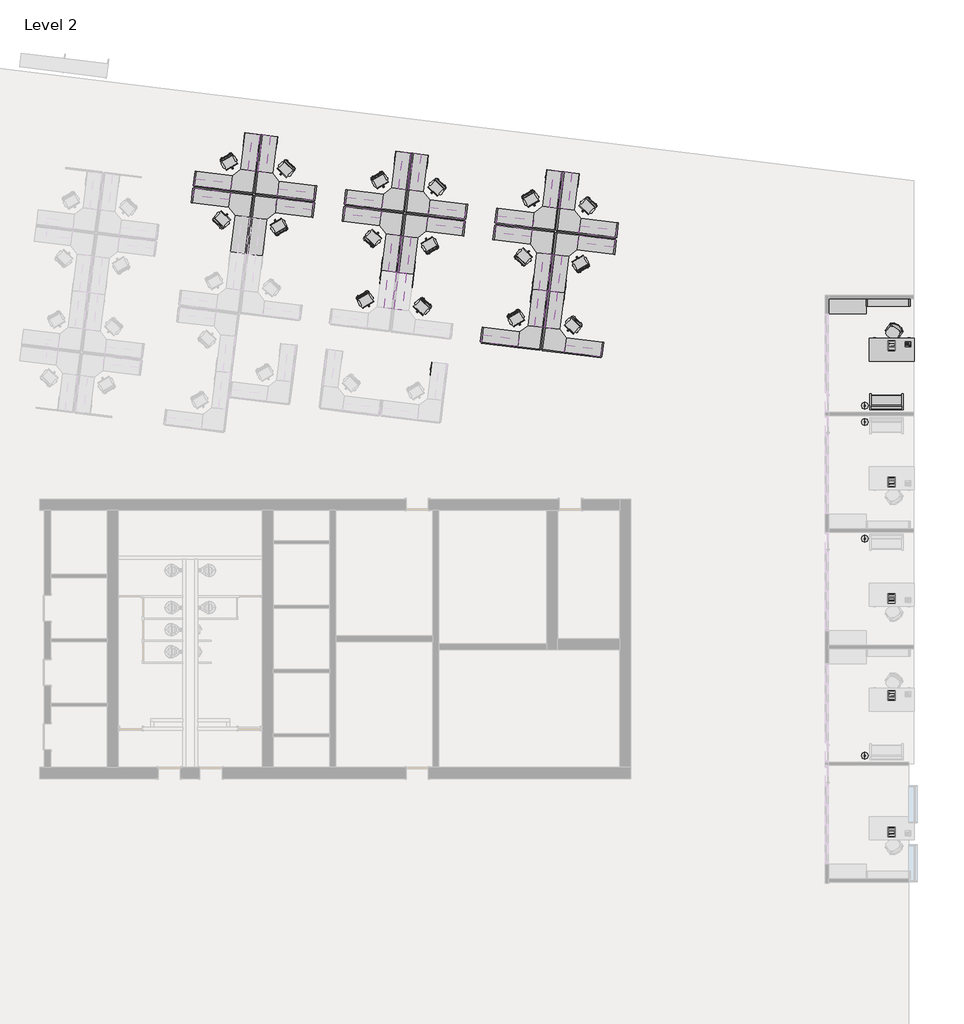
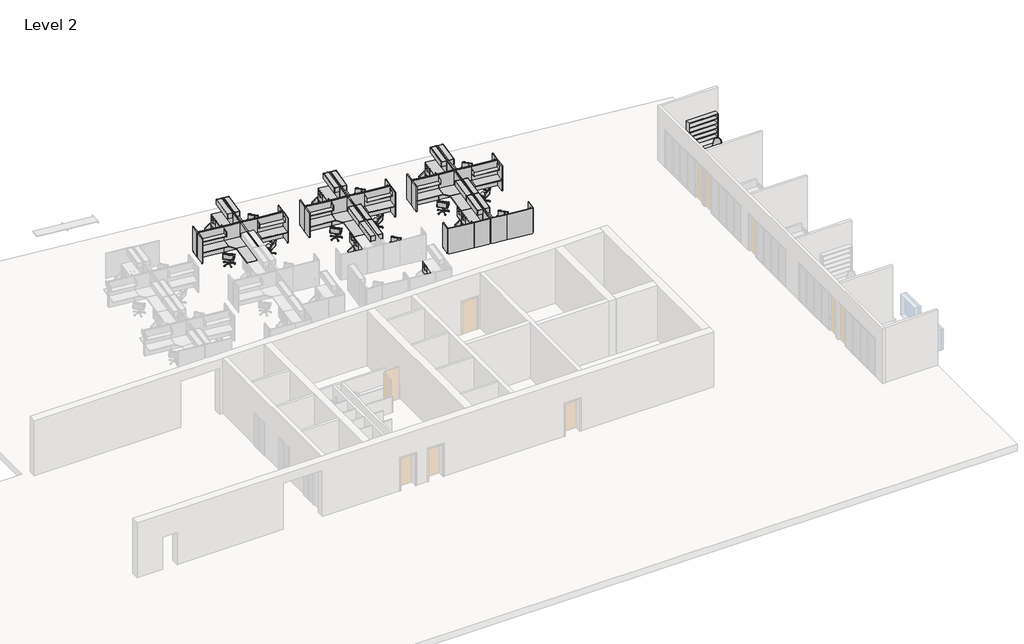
# One storey, part 7 of 7: 92 furniture elements, 6 proxies, 4 light fixtures.
"""IFC4 building model written with IfcOpenShell, lengths in millimetres."""

from ifc_helpers import new_model, si_unit, origin, place, context, project, spatial, transform, mapped, element, save
from components import entourage_0ad6723a, entourage_8dadc95b, phone_phone_5230e7aa, chair_executive_chair_executive_8d69e98c, chair_task_arms_chair_task_arms_3b363349, chair_task_arms_chair_task_arms_8395c10b, furniture_2f1724fb, furniture_665347ce, furniture_3ceed070, furniture_2fc54265, overhead_shelving_module_overhead_shelving_module_3ee17988, overhead_shelving_module_overhead_shelving_module_7dcda1b9, overhead_storage_module_overhead_storage_module_326dc690, overhead_storage_module_overhead_storage_module_bea9f75f, furniture_6f8441ab, furniture_8ec9ccbf, furniture_0333d240, furniture_4718bb14, furniture_45e3acac, furniture_7b33082a, floor_lamp_arm_extension_100w_120v_4af38d8b, floor_lamp_arm_extension_100w_120v_fe5062a9

model = new_model("IFC4")

# Units and contexts
model_context = context("Model", 3, world=origin())
ifc_project = project(units=[si_unit("LENGTHUNIT", "METRE", prefix="MILLI")], contexts=[model_context])

# Site, building, storey
site = spatial("IfcSite", under=ifc_project)
building = spatial("IfcBuilding", under=site)
storey = spatial("IfcBuildingStorey", under=building, Name="Level 2", Elevation=3657.6)

# Proxies
placement = place(None, origin())
entourage_shape = entourage_0ad6723a(model_context)
element("IfcBuildingElementProxy", 1, Name="RPC Notebook Computer : RPC Notebook Computer", ObjectType="RPC Notebook Computer : RPC Notebook Computer", at=placement, inside=storey, context=model_context, shape_type="MappedRepresentation", body=[
    mapped(entourage_shape, transform((14128.9054088, 3143.6530205, 4419.6), x_axis=(-1.0, 0.0, 0.0), y_axis=(0.0, -1.0, 0.0), z_axis=(0.0, 0.0, 1.0))),
])
element("IfcBuildingElementProxy", 2, Name="RPC Notebook Computer : RPC Notebook Computer", ObjectType="RPC Notebook Computer : RPC Notebook Computer", at=placement, inside=storey, context=model_context, shape_type="MappedRepresentation", body=[
    mapped(entourage_shape, transform((14128.9054088, -11359.8598812, 4419.6), x_axis=(-1.0, 0.0, 0.0), y_axis=(0.0, -1.0, 0.0), z_axis=(0.0, 0.0, 1.0))),
])
entourage_2_shape = entourage_8dadc95b(model_context)
element("IfcBuildingElementProxy", 3, Name="RPC Notebook Computer : RPC Notebook Computer", ObjectType="RPC Notebook Computer : RPC Notebook Computer", at=placement, inside=storey, context=model_context, shape_type="MappedRepresentation", body=[
    mapped(entourage_2_shape, transform((14128.9054088, -2561.0729155, 4419.6), x_axis=(-1.0, 0.0, 0.0), y_axis=(0.0, -1.0, 0.0), z_axis=(0.0, 0.0, 1.0))),
])
element("IfcBuildingElementProxy", 4, Name="RPC Notebook Computer : RPC Notebook Computer", ObjectType="RPC Notebook Computer : RPC Notebook Computer", at=placement, inside=storey, context=model_context, shape_type="MappedRepresentation", body=[
    mapped(entourage_2_shape, transform((14128.9054088, -7395.577216, 4419.6), x_axis=(-1.0, 0.0, 0.0), y_axis=(0.0, -1.0, 0.0), z_axis=(0.0, 0.0, 1.0))),
])
element("IfcBuildingElementProxy", 5, Name="RPC Notebook Computer : RPC Notebook Computer", ObjectType="RPC Notebook Computer : RPC Notebook Computer", at=placement, inside=storey, context=model_context, shape_type="MappedRepresentation", body=[
    mapped(entourage_2_shape, transform((14128.9054088, -17064.5858172, 4419.6), x_axis=(-1.0, 0.0, 0.0), y_axis=(0.0, -1.0, 0.0), z_axis=(0.0, 0.0, 1.0))),
])
phone_phone_shape = phone_phone_5230e7aa(model_context)
element("IfcBuildingElementProxy", 6, Name="Phone : Phone", ObjectType="Phone : Phone", at=placement, inside=storey, context=model_context, shape_type="MappedRepresentation", body=[
    mapped(phone_phone_shape, transform((15049.386755, 2959.7567915, 4419.6), x_axis=(1.0, 0.0, 0.0), y_axis=(0.0, 1.0, 0.0), z_axis=(0.0, 0.0, 1.0))),
])

# Furniture
chair_executive_chair_executive_shape = chair_executive_chair_executive_8d69e98c(model_context)
element("IfcFurniture", 7, ObjectType="Chair-Executive : Chair-Executive", at=placement, inside=storey, context=model_context, shape_type="MappedRepresentation", body=[
    mapped(chair_executive_chair_executive_shape, transform((14331.1988374, 3608.0945539, 3657.6), x_axis=(-0.8386705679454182, 0.5446390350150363, 0.0), y_axis=(-0.5446390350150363, -0.8386705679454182, 0.0), z_axis=(0.0, 0.0, 1.0))),
])
chair_task_arms_chair_task_arms_shape = chair_task_arms_chair_task_arms_3b363349(model_context)
element("IfcFurniture", 8, ObjectType="Chair-Task Arms : Chair-Task Arms", at=placement, inside=storey, context=model_context, shape_type="MappedRepresentation", body=[
    mapped(chair_task_arms_chair_task_arms_shape, transform((-13751.3216065, 8411.1318115, 3657.6), x_axis=(0.7193398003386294, -0.6946583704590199, 0.0), y_axis=(0.6946583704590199, 0.7193398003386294, 0.0), z_axis=(0.0, 0.0, 1.0))),
])
element("IfcFurniture", 9, ObjectType="Chair-Task Arms : Chair-Task Arms", at=placement, inside=storey, context=model_context, shape_type="MappedRepresentation", body=[
    mapped(chair_task_arms_chair_task_arms_shape, transform((-7499.074888, 7643.4524435, 3657.6), x_axis=(0.7193398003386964, -0.6946583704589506, 0.0), y_axis=(0.6946583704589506, 0.7193398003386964, 0.0), z_axis=(0.0, 0.0, 1.0))),
])
element("IfcFurniture", 10, ObjectType="Chair-Task Arms : Chair-Task Arms", at=placement, inside=storey, context=model_context, shape_type="MappedRepresentation", body=[
    mapped(chair_task_arms_chair_task_arms_shape, transform((-10847.9259123, 10367.6844822, 3657.6), x_axis=(-0.719339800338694, 0.694658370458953, 0.0), y_axis=(-0.694658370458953, -0.719339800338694, 0.0), z_axis=(0.0, 0.0, 1.0))),
])
element("IfcFurniture", 11, ObjectType="Chair-Task Arms : Chair-Task Arms", at=placement, inside=storey, context=model_context, shape_type="MappedRepresentation", body=[
    mapped(chair_task_arms_chair_task_arms_shape, transform((-4595.6791939, 9600.0051143, 3657.6), x_axis=(-0.719339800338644, 0.6946583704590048, 0.0), y_axis=(-0.6946583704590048, -0.719339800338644, 0.0), z_axis=(0.0, 0.0, 1.0))),
])
element("IfcFurniture", 12, ObjectType="Chair-Task Arms : Chair-Task Arms", at=placement, inside=storey, context=model_context, shape_type="MappedRepresentation", body=[
    mapped(chair_task_arms_chair_task_arms_shape, transform((-5202.3935331, 4658.7133529, 3657.6), x_axis=(-0.7193398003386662, 0.6946583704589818, 0.0), y_axis=(-0.6946583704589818, -0.7193398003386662, 0.0), z_axis=(0.0, 0.0, 1.0))),
])
element("IfcFurniture", 13, ObjectType="Chair-Task Arms : Chair-Task Arms", at=placement, inside=storey, context=model_context, shape_type="MappedRepresentation", body=[
    mapped(chair_task_arms_chair_task_arms_shape, transform((-1246.8281696, 6875.7730755, 3657.6), x_axis=(0.7193398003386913, -0.694658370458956, 0.0), y_axis=(0.694658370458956, 0.7193398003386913, 0.0), z_axis=(0.0, 0.0, 1.0))),
])
element("IfcFurniture", 14, ObjectType="Chair-Task Arms : Chair-Task Arms", at=placement, inside=storey, context=model_context, shape_type="MappedRepresentation", body=[
    mapped(chair_task_arms_chair_task_arms_shape, transform((1656.5675245, 8832.3257463, 3657.6), x_axis=(-0.7193398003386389, 0.6946583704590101, 0.0), y_axis=(-0.6946583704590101, -0.7193398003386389, 0.0), z_axis=(0.0, 0.0, 1.0))),
])
element("IfcFurniture", 15, ObjectType="Chair-Task Arms : Chair-Task Arms", at=placement, inside=storey, context=model_context, shape_type="MappedRepresentation", body=[
    mapped(chair_task_arms_chair_task_arms_shape, transform((1049.8531853, 3891.033985, 3657.6), x_axis=(-0.7193398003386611, 0.6946583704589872, 0.0), y_axis=(-0.6946583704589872, -0.7193398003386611, 0.0), z_axis=(0.0, 0.0, 1.0))),
])
chair_task_arms_chair_task_arms_2_shape = chair_task_arms_chair_task_arms_8395c10b(model_context)
element("IfcFurniture", 16, ObjectType="Chair-Task Arms : Chair-Task Arms", at=placement, inside=storey, context=model_context, shape_type="MappedRepresentation", body=[
    mapped(chair_task_arms_chair_task_arms_2_shape, transform((-13471.5335108, 10689.8229892, 3657.6), x_axis=(0.8660254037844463, 0.4999999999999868, 0.0), y_axis=(-0.4999999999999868, 0.8660254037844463, 0.0), z_axis=(0.0, 0.0, 1.0))),
])
element("IfcFurniture", 17, ObjectType="Chair-Task Arms : Chair-Task Arms", at=placement, inside=storey, context=model_context, shape_type="MappedRepresentation", body=[
    mapped(chair_task_arms_chair_task_arms_2_shape, transform((-7219.2867923, 9922.1436212, 3657.6), x_axis=(0.8660254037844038, 0.5000000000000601, 0.0), y_axis=(-0.5000000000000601, 0.8660254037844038, 0.0), z_axis=(0.0, 0.0, 1.0))),
])
element("IfcFurniture", 18, ObjectType="Chair-Task Arms : Chair-Task Arms", at=placement, inside=storey, context=model_context, shape_type="MappedRepresentation", body=[
    mapped(chair_task_arms_chair_task_arms_2_shape, transform((-11127.714008, 8088.9933045, 3657.6), x_axis=(-0.8660254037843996, -0.5000000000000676, 0.0), y_axis=(0.5000000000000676, -0.8660254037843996, 0.0), z_axis=(0.0, 0.0, 1.0))),
])
element("IfcFurniture", 19, ObjectType="Chair-Task Arms : Chair-Task Arms", at=placement, inside=storey, context=model_context, shape_type="MappedRepresentation", body=[
    mapped(chair_task_arms_chair_task_arms_2_shape, transform((-7826.0011316, 4980.8518599, 3657.6), x_axis=(0.8660254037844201, 0.5000000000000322, 0.0), y_axis=(-0.5000000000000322, 0.8660254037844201, 0.0), z_axis=(0.0, 0.0, 1.0))),
])
element("IfcFurniture", 20, ObjectType="Chair-Task Arms : Chair-Task Arms", at=placement, inside=storey, context=model_context, shape_type="MappedRepresentation", body=[
    mapped(chair_task_arms_chair_task_arms_2_shape, transform((-4875.4672896, 7321.3139366, 3657.6), x_axis=(-0.8660254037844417, -0.49999999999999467, 0.0), y_axis=(0.49999999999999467, -0.8660254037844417, 0.0), z_axis=(0.0, 0.0, 1.0))),
])
element("IfcFurniture", 21, ObjectType="Chair-Task Arms : Chair-Task Arms", at=placement, inside=storey, context=model_context, shape_type="MappedRepresentation", body=[
    mapped(chair_task_arms_chair_task_arms_2_shape, transform((-967.0400739, 9154.4642532, 3657.6), x_axis=(0.8660254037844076, 0.5000000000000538, 0.0), y_axis=(-0.5000000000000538, 0.8660254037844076, 0.0), z_axis=(0.0, 0.0, 1.0))),
])
element("IfcFurniture", 22, ObjectType="Chair-Task Arms : Chair-Task Arms", at=placement, inside=storey, context=model_context, shape_type="MappedRepresentation", body=[
    mapped(chair_task_arms_chair_task_arms_2_shape, transform((-1573.7544131, 4213.1724919, 3657.6), x_axis=(0.8660254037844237, 0.5000000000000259, 0.0), y_axis=(-0.5000000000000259, 0.8660254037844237, 0.0), z_axis=(0.0, 0.0, 1.0))),
])
element("IfcFurniture", 23, ObjectType="Chair-Task Arms : Chair-Task Arms", at=placement, inside=storey, context=model_context, shape_type="MappedRepresentation", body=[
    mapped(chair_task_arms_chair_task_arms_2_shape, transform((1376.7794288, 6553.6345686, 3657.6), x_axis=(-0.8660254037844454, -0.4999999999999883, 0.0), y_axis=(0.4999999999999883, -0.8660254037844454, 0.0), z_axis=(0.0, 0.0, 1.0))),
])
furniture_shape = furniture_2f1724fb(model_context)
element("IfcFurniture", 24, ObjectType="Credenza : 60\" x 24\"", at=placement, inside=storey, context=model_context, shape_type="MappedRepresentation", body=[
    mapped(furniture_shape, transform((12221.5111465, 4755.7246809, 3657.6), x_axis=(1.0, 0.0, 0.0), y_axis=(0.0, 1.0, 0.0), z_axis=(0.0, 0.0, 1.0))),
])
furniture_2_shape = furniture_665347ce(model_context)
element("IfcFurniture", 25, ObjectType="Cube Panel : 24\" x 66\"", at=placement, inside=storey, context=model_context, shape_type="MappedRepresentation", body=[
    mapped(furniture_2_shape, transform((-14838.8170508, 9342.9113863, 3657.6), x_axis=(-0.12186934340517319, -0.9925461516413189, 0.0), y_axis=(0.9925461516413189, -0.12186934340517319, 0.0), z_axis=(0.0, 0.0, 1.0))),
])
element("IfcFurniture", 26, ObjectType="Cube Panel : 24\" x 66\"", at=placement, inside=storey, context=model_context, shape_type="MappedRepresentation", body=[
    mapped(furniture_2_shape, transform((-8586.5703324, 8575.2320183, 3657.6), x_axis=(-0.12186934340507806, -0.9925461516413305, 0.0), y_axis=(0.9925461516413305, -0.12186934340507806, 0.0), z_axis=(0.0, 0.0, 1.0))),
])
element("IfcFurniture", 27, ObjectType="Cube Panel : 24\" x 66\"", at=placement, inside=storey, context=model_context, shape_type="MappedRepresentation", body=[
    mapped(furniture_2_shape, transform((-9760.430468, 9435.9049075, 3657.6), x_axis=(0.12186934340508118, 0.9925461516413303, 0.0), y_axis=(-0.9925461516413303, 0.12186934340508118, 0.0), z_axis=(0.0, 0.0, 1.0))),
])
element("IfcFurniture", 28, ObjectType="Cube Panel : 24\" x 66\"", at=placement, inside=storey, context=model_context, shape_type="MappedRepresentation", body=[
    mapped(furniture_2_shape, transform((-3508.1837495, 8668.2255395, 3657.6), x_axis=(0.12186934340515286, 0.9925461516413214, 0.0), y_axis=(-0.9925461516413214, 0.12186934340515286, 0.0), z_axis=(0.0, 0.0, 1.0))),
])
element("IfcFurniture", 29, ObjectType="Cube Panel : 24\" x 66\"", at=placement, inside=storey, context=model_context, shape_type="MappedRepresentation", body=[
    mapped(furniture_2_shape, transform((-2334.323614, 7807.5526503, 3657.6), x_axis=(-0.12186934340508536, -0.9925461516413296, 0.0), y_axis=(0.9925461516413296, -0.12186934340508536, 0.0), z_axis=(0.0, 0.0, 1.0))),
])
element("IfcFurniture", 30, ObjectType="Cube Panel : 24\" x 66\"", at=placement, inside=storey, context=model_context, shape_type="MappedRepresentation", body=[
    mapped(furniture_2_shape, transform((2744.0629689, 7900.5461715, 3657.6), x_axis=(0.12186934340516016, 0.9925461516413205, 0.0), y_axis=(-0.9925461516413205, 0.12186934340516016, 0.0), z_axis=(0.0, 0.0, 1.0))),
])
element("IfcFurniture", 31, ObjectType="Cube Panel : 24\" x 66\"", at=placement, inside=storey, context=model_context, shape_type="MappedRepresentation", body=[
    mapped(furniture_2_shape, transform((2137.3486297, 2959.2544102, 3657.6), x_axis=(0.12186934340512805, 0.9925461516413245, 0.0), y_axis=(-0.9925461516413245, 0.12186934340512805, 0.0), z_axis=(0.0, 0.0, 1.0))),
])
furniture_3_shape = furniture_3ceed070(model_context)
element("IfcFurniture", 32, ObjectType="Cube Panel : 24\" x 66\"", at=placement, inside=storey, context=model_context, shape_type="MappedRepresentation", body=[
    mapped(furniture_3_shape, transform((-14752.1435738, 10048.8102093, 3657.6), x_axis=(0.1218693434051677, 0.9925461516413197, 0.0), y_axis=(-0.9925461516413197, 0.1218693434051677, 0.0), z_axis=(0.0, 0.0, 1.0))),
])
element("IfcFurniture", 33, ObjectType="Cube Panel : 24\" x 66\"", at=placement, inside=storey, context=model_context, shape_type="MappedRepresentation", body=[
    mapped(furniture_3_shape, transform((-8499.8968554, 9281.1308413, 3657.6), x_axis=(0.12186934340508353, 0.9925461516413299, 0.0), y_axis=(-0.9925461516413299, 0.12186934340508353, 0.0), z_axis=(0.0, 0.0, 1.0))),
])
element("IfcFurniture", 34, ObjectType="Cube Panel : 24\" x 66\"", at=placement, inside=storey, context=model_context, shape_type="MappedRepresentation", body=[
    mapped(furniture_3_shape, transform((-9847.103945, 8730.0060844, 3657.6), x_axis=(-0.1218693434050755, -0.992546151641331, 0.0), y_axis=(0.992546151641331, -0.1218693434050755, 0.0), z_axis=(0.0, 0.0, 1.0))),
])
element("IfcFurniture", 35, ObjectType="Cube Panel : 24\" x 66\"", at=placement, inside=storey, context=model_context, shape_type="MappedRepresentation", body=[
    mapped(furniture_3_shape, transform((-3594.8572266, 7962.3267164, 3657.6), x_axis=(-0.12186934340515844, -0.9925461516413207, 0.0), y_axis=(0.9925461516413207, -0.12186934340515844, 0.0), z_axis=(0.0, 0.0, 1.0))),
])
element("IfcFurniture", 36, ObjectType="Cube Panel : 24\" x 66\"", at=placement, inside=storey, context=model_context, shape_type="MappedRepresentation", body=[
    mapped(furniture_3_shape, transform((-2247.6501369, 8513.4514734, 3657.6), x_axis=(0.12186934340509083, 0.992546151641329, 0.0), y_axis=(-0.992546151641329, 0.12186934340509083, 0.0), z_axis=(0.0, 0.0, 1.0))),
])
element("IfcFurniture", 37, ObjectType="Cube Panel : 24\" x 66\"", at=placement, inside=storey, context=model_context, shape_type="MappedRepresentation", body=[
    mapped(furniture_3_shape, transform((-2854.3644762, 3572.159712, 3657.6), x_axis=(0.1218693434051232, 0.9925461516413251, 0.0), y_axis=(-0.9925461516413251, 0.1218693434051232, 0.0), z_axis=(0.0, 0.0, 1.0))),
])
element("IfcFurniture", 38, ObjectType="Cube Panel : 24\" x 66\"", at=placement, inside=storey, context=model_context, shape_type="MappedRepresentation", body=[
    mapped(furniture_3_shape, transform((2657.3894919, 7194.6473485, 3657.6), x_axis=(-0.12186934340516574, -0.9925461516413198, 0.0), y_axis=(0.9925461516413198, -0.12186934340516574, 0.0), z_axis=(0.0, 0.0, 1.0))),
])
furniture_4_shape = furniture_2fc54265(model_context)
element("IfcFurniture", 39, ObjectType="Desk : 72\" x 36\"", at=placement, inside=storey, context=model_context, shape_type="MappedRepresentation", body=[
    mapped(furniture_4_shape, transform((13214.5054088, 2495.9530205, 3657.6), x_axis=(1.0, 0.0, 0.0), y_axis=(0.0, 1.0, 0.0), z_axis=(0.0, 0.0, 1.0))),
])
overhead_shelving_module_overhead_shelving_module_shape = overhead_shelving_module_overhead_shelving_module_3ee17988(model_context)
element("IfcFurniture", 40, ObjectType="Overhead Shelving Module : Overhead Shelving Module", at=placement, inside=storey, context=model_context, shape_type="MappedRepresentation", body=[
    mapped(overhead_shelving_module_overhead_shelving_module_shape, transform((-13892.315159, 9295.8473751, 3505.2), x_axis=(0.9925461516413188, -0.12186934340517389, 0.0), y_axis=(0.12186934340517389, 0.9925461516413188, 0.0), z_axis=(0.0, 0.0, 1.0))),
])
element("IfcFurniture", 41, ObjectType="Overhead Shelving Module : Overhead Shelving Module", at=placement, inside=storey, context=model_context, shape_type="MappedRepresentation", body=[
    mapped(overhead_shelving_module_overhead_shelving_module_shape, transform((-7640.0684405, 8528.1680071, 3505.2), x_axis=(0.9925461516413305, -0.12186934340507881, 0.0), y_axis=(0.12186934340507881, 0.9925461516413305, 0.0), z_axis=(0.0, 0.0, 1.0))),
])
element("IfcFurniture", 42, ObjectType="Overhead Shelving Module : Overhead Shelving Module", at=placement, inside=storey, context=model_context, shape_type="MappedRepresentation", body=[
    mapped(overhead_shelving_module_overhead_shelving_module_shape, transform((-10706.9323598, 9482.9689186, 3505.2), x_axis=(-0.9925461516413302, 0.12186934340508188, 0.0), y_axis=(-0.12186934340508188, -0.9925461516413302, 0.0), z_axis=(0.0, 0.0, 1.0))),
])
element("IfcFurniture", 43, ObjectType="Overhead Shelving Module : Overhead Shelving Module", at=placement, inside=storey, context=model_context, shape_type="MappedRepresentation", body=[
    mapped(overhead_shelving_module_overhead_shelving_module_shape, transform((-4454.6856414, 8715.2895506, 3505.2), x_axis=(-0.9925461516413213, 0.12186934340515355, 0.0), y_axis=(-0.12186934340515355, -0.9925461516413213, 0.0), z_axis=(0.0, 0.0, 1.0))),
])
element("IfcFurniture", 44, ObjectType="Overhead Shelving Module : Overhead Shelving Module", at=placement, inside=storey, context=model_context, shape_type="MappedRepresentation", body=[
    mapped(overhead_shelving_module_overhead_shelving_module_shape, transform((-1387.8217221, 7760.4886392, 3505.2), x_axis=(0.9925461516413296, -0.12186934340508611, 0.0), y_axis=(0.12186934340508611, 0.9925461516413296, 0.0), z_axis=(0.0, 0.0, 1.0))),
])
element("IfcFurniture", 45, ObjectType="Overhead Shelving Module : Overhead Shelving Module", at=placement, inside=storey, context=model_context, shape_type="MappedRepresentation", body=[
    mapped(overhead_shelving_module_overhead_shelving_module_shape, transform((1797.561077, 7947.6101827, 3505.2), x_axis=(-0.9925461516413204, 0.12186934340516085, 0.0), y_axis=(-0.12186934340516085, -0.9925461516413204, 0.0), z_axis=(0.0, 0.0, 1.0))),
])
element("IfcFurniture", 46, ObjectType="Overhead Shelving Module : Overhead Shelving Module", at=placement, inside=storey, context=model_context, shape_type="MappedRepresentation", body=[
    mapped(overhead_shelving_module_overhead_shelving_module_shape, transform((1190.8467378, 3006.3184213, 3505.2), x_axis=(-0.9925461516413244, 0.1218693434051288, 0.0), y_axis=(-0.1218693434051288, -0.9925461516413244, 0.0), z_axis=(0.0, 0.0, 1.0))),
])
overhead_shelving_module_overhead_shelving_module_2_shape = overhead_shelving_module_overhead_shelving_module_7dcda1b9(model_context)
element("IfcFurniture", 47, ObjectType="Overhead Shelving Module : Overhead Shelving Module", at=placement, inside=storey, context=model_context, shape_type="MappedRepresentation", body=[
    mapped(overhead_shelving_module_overhead_shelving_module_2_shape, transform((-13822.3710184, 9865.4966863, 3505.2), x_axis=(0.9925461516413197, -0.12186934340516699, 0.0), y_axis=(0.12186934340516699, 0.9925461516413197, 0.0), z_axis=(0.0, 0.0, 1.0))),
])
element("IfcFurniture", 48, ObjectType="Overhead Shelving Module : Overhead Shelving Module", at=placement, inside=storey, context=model_context, shape_type="MappedRepresentation", body=[
    mapped(overhead_shelving_module_overhead_shelving_module_2_shape, transform((-7570.1243, 9097.8173184, 3505.2), x_axis=(0.9925461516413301, -0.12186934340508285, 0.0), y_axis=(0.12186934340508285, 0.9925461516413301, 0.0), z_axis=(0.0, 0.0, 1.0))),
])
element("IfcFurniture", 49, ObjectType="Overhead Shelving Module : Overhead Shelving Module", at=placement, inside=storey, context=model_context, shape_type="MappedRepresentation", body=[
    mapped(overhead_shelving_module_overhead_shelving_module_2_shape, transform((-10776.8765003, 8913.3196074, 3505.2), x_axis=(-0.992546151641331, 0.12186934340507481, 0.0), y_axis=(-0.12186934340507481, -0.992546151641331, 0.0), z_axis=(0.0, 0.0, 1.0))),
])
element("IfcFurniture", 50, ObjectType="Overhead Shelving Module : Overhead Shelving Module", at=placement, inside=storey, context=model_context, shape_type="MappedRepresentation", body=[
    mapped(overhead_shelving_module_overhead_shelving_module_2_shape, transform((-4524.6297819, 8145.6402394, 3505.2), x_axis=(-0.9925461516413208, 0.1218693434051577, 0.0), y_axis=(-0.1218693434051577, -0.9925461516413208, 0.0), z_axis=(0.0, 0.0, 1.0))),
])
element("IfcFurniture", 51, ObjectType="Overhead Shelving Module : Overhead Shelving Module", at=placement, inside=storey, context=model_context, shape_type="MappedRepresentation", body=[
    mapped(overhead_shelving_module_overhead_shelving_module_2_shape, transform((-1317.8775816, 8330.1379504, 3505.2), x_axis=(0.9925461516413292, -0.12186934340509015, 0.0), y_axis=(0.12186934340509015, 0.9925461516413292, 0.0), z_axis=(0.0, 0.0, 1.0))),
])
element("IfcFurniture", 52, ObjectType="Overhead Shelving Module : Overhead Shelving Module", at=placement, inside=storey, context=model_context, shape_type="MappedRepresentation", body=[
    mapped(overhead_shelving_module_overhead_shelving_module_2_shape, transform((-1924.5919208, 3388.846189, 3505.2), x_axis=(0.9925461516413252, -0.12186934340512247, 0.0), y_axis=(0.12186934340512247, 0.9925461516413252, 0.0), z_axis=(0.0, 0.0, 1.0))),
])
element("IfcFurniture", 53, ObjectType="Overhead Shelving Module : Overhead Shelving Module", at=placement, inside=storey, context=model_context, shape_type="MappedRepresentation", body=[
    mapped(overhead_shelving_module_overhead_shelving_module_2_shape, transform((1727.6169365, 7377.9608714, 3505.2), x_axis=(-0.9925461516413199, 0.121869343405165, 0.0), y_axis=(-0.121869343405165, -0.9925461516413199, 0.0), z_axis=(0.0, 0.0, 1.0))),
])
overhead_storage_module_overhead_storage_module_shape = overhead_storage_module_overhead_storage_module_326dc690(model_context)
element("IfcFurniture", 54, ObjectType="Overhead Storage Module : Overhead Storage Module", at=placement, inside=storey, context=model_context, shape_type="MappedRepresentation", body=[
    mapped(overhead_storage_module_overhead_storage_module_shape, transform((-6561.9232726, 6785.7687522, 3657.6), x_axis=(-0.12186934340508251, -0.9925461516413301, 0.0), y_axis=(0.9925461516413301, -0.12186934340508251, 0.0), z_axis=(0.0, 0.0, 1.0))),
])
element("IfcFurniture", 55, ObjectType="Overhead Storage Module : Overhead Storage Module", at=placement, inside=storey, context=model_context, shape_type="MappedRepresentation", body=[
    mapped(overhead_storage_module_overhead_storage_module_shape, transform((-11785.0775278, 11225.3681735, 3657.6), x_axis=(0.1218693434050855, 0.9925461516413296, 0.0), y_axis=(-0.9925461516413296, 0.1218693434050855, 0.0), z_axis=(0.0, 0.0, 1.0))),
])
element("IfcFurniture", 56, ObjectType="Overhead Storage Module : Overhead Storage Module", at=placement, inside=storey, context=model_context, shape_type="MappedRepresentation", body=[
    mapped(overhead_storage_module_overhead_storage_module_shape, transform((-5532.8308094, 10457.6888055, 3657.6), x_axis=(0.12186934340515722, 0.9925461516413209, 0.0), y_axis=(-0.9925461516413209, 0.12186934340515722, 0.0), z_axis=(0.0, 0.0, 1.0))),
])
element("IfcFurniture", 57, ObjectType="Overhead Storage Module : Overhead Storage Module", at=placement, inside=storey, context=model_context, shape_type="MappedRepresentation", body=[
    mapped(overhead_storage_module_overhead_storage_module_shape, transform((-6139.5451486, 5516.3970442, 3657.6), x_axis=(0.1218693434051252, 0.9925461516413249, 0.0), y_axis=(-0.9925461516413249, 0.1218693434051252, 0.0), z_axis=(0.0, 0.0, 1.0))),
])
element("IfcFurniture", 58, ObjectType="Overhead Storage Module : Overhead Storage Module", at=placement, inside=storey, context=model_context, shape_type="MappedRepresentation", body=[
    mapped(overhead_storage_module_overhead_storage_module_shape, transform((-309.6765541, 6018.0893843, 3657.6), x_axis=(-0.12186934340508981, -0.9925461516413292, 0.0), y_axis=(0.9925461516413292, -0.12186934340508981, 0.0), z_axis=(0.0, 0.0, 1.0))),
])
element("IfcFurniture", 59, ObjectType="Overhead Storage Module : Overhead Storage Module", at=placement, inside=storey, context=model_context, shape_type="MappedRepresentation", body=[
    mapped(overhead_storage_module_overhead_storage_module_shape, transform((719.4159091, 9690.0094376, 3657.6), x_axis=(0.12186934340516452, 0.99254615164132, 0.0), y_axis=(-0.99254615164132, 0.12186934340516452, 0.0), z_axis=(0.0, 0.0, 1.0))),
])
element("IfcFurniture", 60, ObjectType="Overhead Storage Module : Overhead Storage Module", at=placement, inside=storey, context=model_context, shape_type="MappedRepresentation", body=[
    mapped(overhead_storage_module_overhead_storage_module_shape, transform((112.7015698, 4748.7176762, 3657.6), x_axis=(0.1218693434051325, 0.992546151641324, 0.0), y_axis=(-0.992546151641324, 0.1218693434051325, 0.0), z_axis=(0.0, 0.0, 1.0))),
])
overhead_storage_module_overhead_storage_module_2_shape = overhead_storage_module_overhead_storage_module_bea9f75f(model_context)
element("IfcFurniture", 61, ObjectType="Overhead Storage Module : Overhead Storage Module", at=placement, inside=storey, context=model_context, shape_type="MappedRepresentation", body=[
    mapped(overhead_storage_module_overhead_storage_module_2_shape, transform((-12354.726839, 11295.3123141, 3657.6), x_axis=(0.12186934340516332, 0.9925461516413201, 0.0), y_axis=(-0.9925461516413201, 0.12186934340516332, 0.0), z_axis=(0.0, 0.0, 1.0))),
])
element("IfcFurniture", 62, ObjectType="Overhead Storage Module : Overhead Storage Module", at=placement, inside=storey, context=model_context, shape_type="MappedRepresentation", body=[
    mapped(overhead_storage_module_overhead_storage_module_2_shape, transform((-6102.4801206, 10527.6329461, 3657.6), x_axis=(0.12186934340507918, 0.9925461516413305, 0.0), y_axis=(-0.9925461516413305, 0.12186934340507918, 0.0), z_axis=(0.0, 0.0, 1.0))),
])
element("IfcFurniture", 63, ObjectType="Overhead Storage Module : Overhead Storage Module", at=placement, inside=storey, context=model_context, shape_type="MappedRepresentation", body=[
    mapped(overhead_storage_module_overhead_storage_module_2_shape, transform((-6709.1944598, 5586.3411848, 3657.6), x_axis=(0.12186934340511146, 0.9925461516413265, 0.0), y_axis=(-0.9925461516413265, 0.12186934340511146, 0.0), z_axis=(0.0, 0.0, 1.0))),
])
element("IfcFurniture", 64, ObjectType="Overhead Storage Module : Overhead Storage Module", at=placement, inside=storey, context=model_context, shape_type="MappedRepresentation", body=[
    mapped(overhead_storage_module_overhead_storage_module_2_shape, transform((-5992.2739614, 6715.8246117, 3657.6), x_axis=(-0.12186934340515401, -0.9925461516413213, 0.0), y_axis=(0.9925461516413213, -0.12186934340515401, 0.0), z_axis=(0.0, 0.0, 1.0))),
])
element("IfcFurniture", 65, ObjectType="Overhead Storage Module : Overhead Storage Module", at=placement, inside=storey, context=model_context, shape_type="MappedRepresentation", body=[
    mapped(overhead_storage_module_overhead_storage_module_2_shape, transform((149.7665979, 9759.9535781, 3657.6), x_axis=(0.12186934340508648, 0.9925461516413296, 0.0), y_axis=(-0.9925461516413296, 0.12186934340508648, 0.0), z_axis=(0.0, 0.0, 1.0))),
])
element("IfcFurniture", 66, ObjectType="Overhead Storage Module : Overhead Storage Module", at=placement, inside=storey, context=model_context, shape_type="MappedRepresentation", body=[
    mapped(overhead_storage_module_overhead_storage_module_2_shape, transform((-456.9477414, 4818.6618168, 3657.6), x_axis=(0.12186934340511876, 0.9925461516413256, 0.0), y_axis=(-0.9925461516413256, 0.12186934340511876, 0.0), z_axis=(0.0, 0.0, 1.0))),
])
element("IfcFurniture", 67, ObjectType="Overhead Storage Module : Overhead Storage Module", at=placement, inside=storey, context=model_context, shape_type="MappedRepresentation", body=[
    mapped(overhead_storage_module_overhead_storage_module_2_shape, transform((259.9727571, 5948.1452437, 3657.6), x_axis=(-0.12186934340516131, -0.9925461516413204, 0.0), y_axis=(0.9925461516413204, -0.12186934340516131, 0.0), z_axis=(0.0, 0.0, 1.0))),
])
furniture_5_shape = furniture_6f8441ab(model_context)
element("IfcFurniture", 68, ObjectType="Shelving : 96\" x 12\" x 84\"", at=placement, inside=storey, context=model_context, shape_type="MappedRepresentation", body=[
    mapped(furniture_5_shape, transform((13982.8554088, 5208.3443531, 3657.6), x_axis=(1.0, 0.0, 0.0), y_axis=(0.0, 1.0, 0.0), z_axis=(0.0, 0.0, 1.0))),
])
furniture_6_shape = furniture_8ec9ccbf(model_context)
element("IfcFurniture", 69, ObjectType="Sofa : 54\"", at=placement, inside=storey, context=model_context, shape_type="MappedRepresentation", body=[
    mapped(furniture_6_shape, transform((13848.0435844, 933.0927839, 3657.6), x_axis=(1.0, 0.0, 0.0), y_axis=(0.0, 1.0, 0.0), z_axis=(0.0, 0.0, 1.0))),
])
furniture_7_shape = furniture_0333d240(model_context)
element("IfcFurniture", 70, ObjectType="Storage Pedestal : 20\" x 30\" x 36\"", at=placement, inside=storey, context=model_context, shape_type="MappedRepresentation", body=[
    mapped(furniture_7_shape, transform((-5833.5477932, 6187.7041847, 3657.6), x_axis=(-0.12186934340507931, -0.9925461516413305, 0.0), y_axis=(0.9925461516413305, -0.12186934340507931, 0.0), z_axis=(0.0, 0.0, 1.0))),
])
element("IfcFurniture", 71, ObjectType="Storage Pedestal : 20\" x 30\" x 36\"", at=placement, inside=storey, context=model_context, shape_type="MappedRepresentation", body=[
    mapped(furniture_7_shape, transform((-12513.4530071, 11823.432741, 3657.6), x_axis=(0.12186934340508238, 0.9925461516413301, 0.0), y_axis=(-0.9925461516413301, 0.12186934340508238, 0.0), z_axis=(0.0, 0.0, 1.0))),
])
element("IfcFurniture", 72, ObjectType="Storage Pedestal : 20\" x 30\" x 36\"", at=placement, inside=storey, context=model_context, shape_type="MappedRepresentation", body=[
    mapped(furniture_7_shape, transform((-6261.2062887, 11055.7533731, 3657.6), x_axis=(0.12186934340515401, 0.9925461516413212, 0.0), y_axis=(-0.9925461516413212, 0.12186934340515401, 0.0), z_axis=(0.0, 0.0, 1.0))),
])
element("IfcFurniture", 73, ObjectType="Storage Pedestal : 20\" x 30\" x 36\"", at=placement, inside=storey, context=model_context, shape_type="MappedRepresentation", body=[
    mapped(furniture_7_shape, transform((-6867.9206279, 6114.4616117, 3657.6), x_axis=(0.12186934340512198, 0.9925461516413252, 0.0), y_axis=(-0.9925461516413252, 0.12186934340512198, 0.0), z_axis=(0.0, 0.0, 1.0))),
])
element("IfcFurniture", 74, ObjectType="Storage Pedestal : 20\" x 30\" x 36\"", at=placement, inside=storey, context=model_context, shape_type="MappedRepresentation", body=[
    mapped(furniture_7_shape, transform((418.6989252, 5420.0248167, 3657.6), x_axis=(-0.12186934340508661, -0.9925461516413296, 0.0), y_axis=(0.9925461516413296, -0.12186934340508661, 0.0), z_axis=(0.0, 0.0, 1.0))),
])
element("IfcFurniture", 75, ObjectType="Storage Pedestal : 20\" x 30\" x 36\"", at=placement, inside=storey, context=model_context, shape_type="MappedRepresentation", body=[
    mapped(furniture_7_shape, transform((-8.9595703, 10288.0740051, 3657.6), x_axis=(0.12186934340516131, 0.9925461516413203, 0.0), y_axis=(-0.9925461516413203, 0.12186934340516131, 0.0), z_axis=(0.0, 0.0, 1.0))),
])
element("IfcFurniture", 76, ObjectType="Storage Pedestal : 20\" x 30\" x 36\"", at=placement, inside=storey, context=model_context, shape_type="MappedRepresentation", body=[
    mapped(furniture_7_shape, transform((-615.6739095, 5346.7822438, 3657.6), x_axis=(0.12186934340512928, 0.9925461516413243, 0.0), y_axis=(-0.9925461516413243, 0.12186934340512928, 0.0), z_axis=(0.0, 0.0, 1.0))),
])
furniture_8_shape = furniture_4718bb14(model_context)
element("IfcFurniture", 77, ObjectType="Storage Pedestal : 20\" x 30\" x 36\"", at=placement, inside=storey, context=model_context, shape_type="MappedRepresentation", body=[
    mapped(furniture_8_shape, transform((-11503.3023104, 11699.4018313, 3657.6), x_axis=(0.12186934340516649, 0.9925461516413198, 0.0), y_axis=(-0.9925461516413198, 0.12186934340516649, 0.0), z_axis=(0.0, 0.0, 1.0))),
])
element("IfcFurniture", 78, ObjectType="Storage Pedestal : 20\" x 30\" x 36\"", at=placement, inside=storey, context=model_context, shape_type="MappedRepresentation", body=[
    mapped(furniture_8_shape, transform((-5251.055592, 10931.7224633, 3657.6), x_axis=(0.12186934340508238, 0.9925461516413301, 0.0), y_axis=(-0.9925461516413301, 0.12186934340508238, 0.0), z_axis=(0.0, 0.0, 1.0))),
])
element("IfcFurniture", 79, ObjectType="Storage Pedestal : 20\" x 30\" x 36\"", at=placement, inside=storey, context=model_context, shape_type="MappedRepresentation", body=[
    mapped(furniture_8_shape, transform((-5857.7699312, 5990.430702, 3657.6), x_axis=(0.12186934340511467, 0.9925461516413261, 0.0), y_axis=(-0.9925461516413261, 0.12186934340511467, 0.0), z_axis=(0.0, 0.0, 1.0))),
])
element("IfcFurniture", 80, ObjectType="Storage Pedestal : 20\" x 30\" x 36\"", at=placement, inside=storey, context=model_context, shape_type="MappedRepresentation", body=[
    mapped(furniture_8_shape, transform((-6843.69849, 6311.7350944, 3657.6), x_axis=(-0.12186934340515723, -0.992546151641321, 0.0), y_axis=(0.992546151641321, -0.12186934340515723, 0.0), z_axis=(0.0, 0.0, 1.0))),
])
element("IfcFurniture", 81, ObjectType="Storage Pedestal : 20\" x 30\" x 36\"", at=placement, inside=storey, context=model_context, shape_type="MappedRepresentation", body=[
    mapped(furniture_8_shape, transform((1001.1911264, 10164.0430954, 3657.6), x_axis=(0.12186934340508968, 0.9925461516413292, 0.0), y_axis=(-0.9925461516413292, 0.12186934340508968, 0.0), z_axis=(0.0, 0.0, 1.0))),
])
element("IfcFurniture", 82, ObjectType="Storage Pedestal : 20\" x 30\" x 36\"", at=placement, inside=storey, context=model_context, shape_type="MappedRepresentation", body=[
    mapped(furniture_8_shape, transform((394.4767872, 5222.751334, 3657.6), x_axis=(0.12186934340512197, 0.9925461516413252, 0.0), y_axis=(-0.9925461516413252, 0.12186934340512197, 0.0), z_axis=(0.0, 0.0, 1.0))),
])
element("IfcFurniture", 83, ObjectType="Storage Pedestal : 20\" x 30\" x 36\"", at=placement, inside=storey, context=model_context, shape_type="MappedRepresentation", body=[
    mapped(furniture_8_shape, transform((-591.4517715, 5544.0557265, 3657.6), x_axis=(-0.12186934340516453, -0.9925461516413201, 0.0), y_axis=(0.9925461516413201, -0.12186934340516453, 0.0), z_axis=(0.0, 0.0, 1.0))),
])
element("IfcFurniture", 84, ObjectType="Storage Pedestal : 20\" x 30\" x 36\"", at=placement, inside=storey, context=model_context, shape_type="MappedRepresentation", body=[
    mapped(furniture_8_shape, transform((-3764.6993477, 2195.1296495, 3657.6), x_axis=(0.1218693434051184, 0.9925461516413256, 0.0), y_axis=(-0.9925461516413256, 0.1218693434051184, 0.0), z_axis=(0.0, 0.0, 1.0))),
])
furniture_9_shape = furniture_45e3acac(model_context)
element("IfcFurniture", 85, ObjectType="Work Station Cubicle : 96\" x 96\"", at=placement, inside=storey, context=model_context, shape_type="MappedRepresentation", body=[
    mapped(furniture_9_shape, transform((-11824.3446403, 9198.3301742, 3657.6), x_axis=(-0.1218693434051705, -0.9925461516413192, 0.0), y_axis=(0.9925461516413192, -0.1218693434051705, 0.0), z_axis=(0.0, 0.0, 1.0))),
])
element("IfcFurniture", 86, ObjectType="Work Station Cubicle : 96\" x 96\"", at=placement, inside=storey, context=model_context, shape_type="MappedRepresentation", body=[
    mapped(furniture_9_shape, transform((-5572.0979219, 8430.6508063, 3657.6), x_axis=(-0.12186934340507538, -0.992546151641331, 0.0), y_axis=(0.992546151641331, -0.12186934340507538, 0.0), z_axis=(0.0, 0.0, 1.0))),
])
element("IfcFurniture", 87, ObjectType="Work Station Cubicle : 96\" x 96\"", at=placement, inside=storey, context=model_context, shape_type="MappedRepresentation", body=[
    mapped(furniture_9_shape, transform((-12774.9028784, 9580.4861195, 3657.6), x_axis=(0.12186934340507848, 0.9925461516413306, 0.0), y_axis=(-0.9925461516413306, 0.12186934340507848, 0.0), z_axis=(0.0, 0.0, 1.0))),
])
element("IfcFurniture", 88, ObjectType="Work Station Cubicle : 96\" x 96\"", at=placement, inside=storey, context=model_context, shape_type="MappedRepresentation", body=[
    mapped(furniture_9_shape, transform((-6522.65616, 8812.8067515, 3657.6), x_axis=(0.12186934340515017, 0.9925461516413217, 0.0), y_axis=(-0.9925461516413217, 0.12186934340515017, 0.0), z_axis=(0.0, 0.0, 1.0))),
])
element("IfcFurniture", 89, ObjectType="Work Station Cubicle : 96\" x 96\"", at=placement, inside=storey, context=model_context, shape_type="MappedRepresentation", body=[
    mapped(furniture_9_shape, transform((680.1487965, 7662.9714383, 3657.6), x_axis=(-0.12186934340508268, -0.9925461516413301, 0.0), y_axis=(0.9925461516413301, -0.12186934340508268, 0.0), z_axis=(0.0, 0.0, 1.0))),
])
element("IfcFurniture", 90, ObjectType="Work Station Cubicle : 96\" x 96\"", at=placement, inside=storey, context=model_context, shape_type="MappedRepresentation", body=[
    mapped(furniture_9_shape, transform((-270.4094416, 8045.1273835, 3657.6), x_axis=(0.12186934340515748, 0.9925461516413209, 0.0), y_axis=(-0.9925461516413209, 0.12186934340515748, 0.0), z_axis=(0.0, 0.0, 1.0))),
])
element("IfcFurniture", 91, ObjectType="Work Station Cubicle : 96\" x 96\"", at=placement, inside=storey, context=model_context, shape_type="MappedRepresentation", body=[
    mapped(furniture_9_shape, transform((-877.1237808, 3103.8356222, 3657.6), x_axis=(0.12186934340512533, 0.9925461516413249, 0.0), y_axis=(-0.9925461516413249, 0.12186934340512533, 0.0), z_axis=(0.0, 0.0, 1.0))),
])
furniture_10_shape = furniture_7b33082a(model_context)
element("IfcFurniture", 92, ObjectType="Work Station Cubicle : 96\" x 96\"", at=placement, inside=storey, context=model_context, shape_type="MappedRepresentation", body=[
    mapped(furniture_10_shape, transform((-11792.236516, 9459.8298617, 3657.6), x_axis=(0.12186934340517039, 0.9925461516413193, 0.0), y_axis=(-0.9925461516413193, 0.12186934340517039, 0.0), z_axis=(0.0, 0.0, 1.0))),
])
element("IfcFurniture", 93, ObjectType="Work Station Cubicle : 96\" x 96\"", at=placement, inside=storey, context=model_context, shape_type="MappedRepresentation", body=[
    mapped(furniture_10_shape, transform((-5539.9897976, 8692.1504937, 3657.6), x_axis=(0.12186934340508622, 0.9925461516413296, 0.0), y_axis=(-0.9925461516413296, 0.12186934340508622, 0.0), z_axis=(0.0, 0.0, 1.0))),
])
element("IfcFurniture", 94, ObjectType="Work Station Cubicle : 96\" x 96\"", at=placement, inside=storey, context=model_context, shape_type="MappedRepresentation", body=[
    mapped(furniture_10_shape, transform((-12807.0110027, 9318.9864321, 3657.6), x_axis=(-0.12186934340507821, -0.9925461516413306, 0.0), y_axis=(0.9925461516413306, -0.12186934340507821, 0.0), z_axis=(0.0, 0.0, 1.0))),
])
element("IfcFurniture", 95, ObjectType="Work Station Cubicle : 96\" x 96\"", at=placement, inside=storey, context=model_context, shape_type="MappedRepresentation", body=[
    mapped(furniture_10_shape, transform((-6554.7642843, 8551.3070641, 3657.6), x_axis=(-0.12186934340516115, -0.9925461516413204, 0.0), y_axis=(0.9925461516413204, -0.12186934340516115, 0.0), z_axis=(0.0, 0.0, 1.0))),
])
element("IfcFurniture", 96, ObjectType="Work Station Cubicle : 96\" x 96\"", at=placement, inside=storey, context=model_context, shape_type="MappedRepresentation", body=[
    mapped(furniture_10_shape, transform((712.2569208, 7924.4711257, 3657.6), x_axis=(0.12186934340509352, 0.9925461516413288, 0.0), y_axis=(-0.9925461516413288, 0.12186934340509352, 0.0), z_axis=(0.0, 0.0, 1.0))),
])
element("IfcFurniture", 97, ObjectType="Work Station Cubicle : 96\" x 96\"", at=placement, inside=storey, context=model_context, shape_type="MappedRepresentation", body=[
    mapped(furniture_10_shape, transform((105.5425816, 2983.1793644, 3657.6), x_axis=(0.12186934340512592, 0.9925461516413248, 0.0), y_axis=(-0.9925461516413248, 0.12186934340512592, 0.0), z_axis=(0.0, 0.0, 1.0))),
])
element("IfcFurniture", 98, ObjectType="Work Station Cubicle : 96\" x 96\"", at=placement, inside=storey, context=model_context, shape_type="MappedRepresentation", body=[
    mapped(furniture_10_shape, transform((-302.5175659, 7783.6276961, 3657.6), x_axis=(-0.12186934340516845, -0.9925461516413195, 0.0), y_axis=(0.9925461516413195, -0.12186934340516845, 0.0), z_axis=(0.0, 0.0, 1.0))),
])

# Light fixtures
floor_lamp_arm_extension_100w_120v_shape = floor_lamp_arm_extension_100w_120v_4af38d8b(model_context)
element("IfcLightFixture", 99, ObjectType="Floor Lamp - Arm Extension : 100W - 120V", at=placement, inside=storey, context=model_context, shape_type="MappedRepresentation", body=[
    mapped(floor_lamp_arm_extension_100w_120v_shape, transform((13016.7140762, -47.4142481, 3657.6), x_axis=(-1.0, 0.0, 0.0), y_axis=(0.0, -1.0, 0.0), z_axis=(0.0, 0.0, 1.0))),
])
element("IfcLightFixture", 100, ObjectType="Floor Lamp - Arm Extension : 100W - 120V", at=placement, inside=storey, context=model_context, shape_type="MappedRepresentation", body=[
    mapped(floor_lamp_arm_extension_100w_120v_shape, transform((13016.7140762, -4881.9185486, 3657.6), x_axis=(-1.0, 0.0, 0.0), y_axis=(0.0, -1.0, 0.0), z_axis=(0.0, 0.0, 1.0))),
])
floor_lamp_arm_extension_100w_120v_2_shape = floor_lamp_arm_extension_100w_120v_fe5062a9(model_context)
element("IfcLightFixture", 101, ObjectType="Floor Lamp - Arm Extension : 100W - 120V", at=placement, inside=storey, context=model_context, shape_type="MappedRepresentation", body=[
    mapped(floor_lamp_arm_extension_100w_120v_2_shape, transform((13016.7140762, 629.9943531, 3657.6), x_axis=(-1.0, 0.0, 0.0), y_axis=(0.0, -1.0, 0.0), z_axis=(0.0, 0.0, 1.0))),
])
element("IfcLightFixture", 102, ObjectType="Floor Lamp - Arm Extension : 100W - 120V", at=placement, inside=storey, context=model_context, shape_type="MappedRepresentation", body=[
    mapped(floor_lamp_arm_extension_100w_120v_2_shape, transform((13016.7140762, -13873.5185486, 3657.6), x_axis=(-1.0, 0.0, 0.0), y_axis=(0.0, -1.0, 0.0), z_axis=(0.0, 0.0, 1.0))),
])

save(model, "model.ifc")
